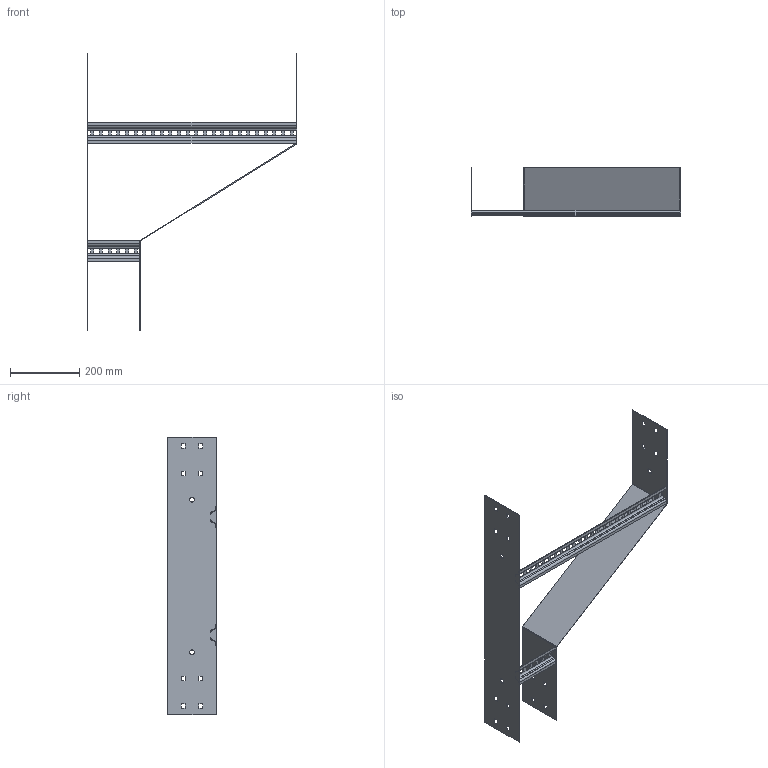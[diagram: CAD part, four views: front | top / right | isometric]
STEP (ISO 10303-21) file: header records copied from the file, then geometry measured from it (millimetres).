
FILE_DESCRIPTION (( 'STEP AP203' ), '1' );
FILE_NAME ('N20C LHR600150.STEP', '2024-08-28T22:24:45', ( '' ), ( '' ), 'SwSTEP 2.0', 'SolidWorks 2023', '' );
FILE_SCHEMA (( 'CONFIG_CONTROL_DESIGN' ));
Length unit declared in the file: millimetre
Products named in the file (5): Ladder Rung_Ladder Rung -  150mm; N20C REDUCER_LHR150x600; N20C LHR600150; N20C Tee Back Plate_800; Ladder Rung_Ladder Rung -  600mm
Assembly tree (4 placements, depth 2):
  N20C LHR600150
    N20C REDUCER_LHR150x600
    Ladder Rung_Ladder Rung -  150mm
    Ladder Rung_Ladder Rung -  600mm
    N20C Tee Back Plate_800
Bounding box: 604 x 140 x 800 mm (x, y, z)
Volume: 592072.8 mm3; surface area: 628063.5 mm2
Topology: 4 solids, 4 shells, 304 faces, 808 edges, 512 vertices
Faces by surface type: plane 276, cylinder 28
Entity records: 9903 total; most frequent: CARTESIAN_POINT 1631, ORIENTED_EDGE 1616, DIRECTION 1486, EDGE_CURVE 808, LINE 752, VECTOR 752, VERTEX_POINT 512, EDGE_LOOP 400
